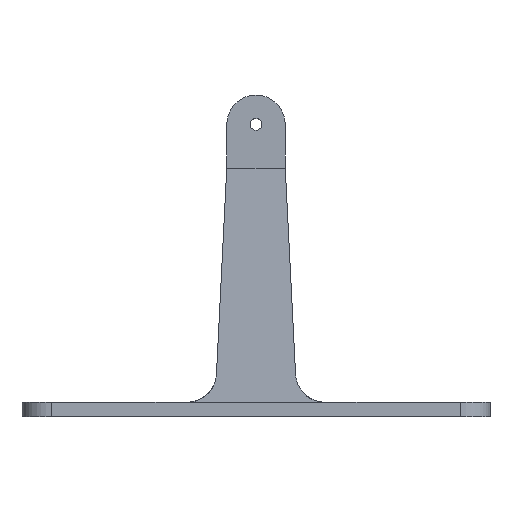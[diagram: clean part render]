
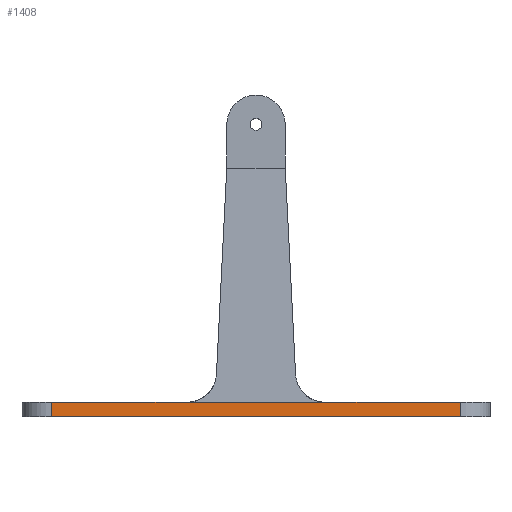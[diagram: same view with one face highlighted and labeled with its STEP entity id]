
A CAD part, left-side view. The second image highlights one B-rep face of the part: STEP entity #1408.
In plain terms, the highlighted planar face has unit normal (-1, 0, 0).
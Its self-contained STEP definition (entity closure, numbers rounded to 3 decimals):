
#32 = PLANE('',#33);
#33 = AXIS2_PLACEMENT_3D('',#34,#35,#36);
#34 = CARTESIAN_POINT('',(0.,0.,5.));
#35 = DIRECTION('',(0.,0.,-1.));
#36 = DIRECTION('',(-1.,0.,0.));
#227 = VERTEX_POINT('',#228);
#228 = CARTESIAN_POINT('',(-80.,-23.512,5.));
#254 = EDGE_CURVE('',#255,#227,#257,.T.);
#255 = VERTEX_POINT('',#256);
#256 = CARTESIAN_POINT('',(-80.,-70.,5.));
#257 = SURFACE_CURVE('',#258,(#262,#269),.PCURVE_S1.);
#258 = LINE('',#259,#260);
#259 = CARTESIAN_POINT('',(-80.,-80.,5.));
#260 = VECTOR('',#261,1.);
#261 = DIRECTION('',(0.,1.,0.));
#262 = PCURVE('',#32,#263);
#263 = DEFINITIONAL_REPRESENTATION('',(#264),#268);
#264 = LINE('',#265,#266);
#265 = CARTESIAN_POINT('',(80.,-80.));
#266 = VECTOR('',#267,1.);
#267 = DIRECTION('',(0.,1.));
#268 = ( GEOMETRIC_REPRESENTATION_CONTEXT(2) 
PARAMETRIC_REPRESENTATION_CONTEXT() REPRESENTATION_CONTEXT('2D SPACE',''
  ) );
#269 = PCURVE('',#270,#275);
#270 = PLANE('',#271);
#271 = AXIS2_PLACEMENT_3D('',#272,#273,#274);
#272 = CARTESIAN_POINT('',(-80.,-80.,5.));
#273 = DIRECTION('',(-1.,0.,0.));
#274 = DIRECTION('',(0.,0.,1.));
#275 = DEFINITIONAL_REPRESENTATION('',(#276),#280);
#276 = LINE('',#277,#278);
#277 = CARTESIAN_POINT('',(0.,0.));
#278 = VECTOR('',#279,1.);
#279 = DIRECTION('',(0.,1.));
#280 = ( GEOMETRIC_REPRESENTATION_CONTEXT(2) 
PARAMETRIC_REPRESENTATION_CONTEXT() REPRESENTATION_CONTEXT('2D SPACE',''
  ) );
#303 = CYLINDRICAL_SURFACE('',#304,10.);
#304 = AXIS2_PLACEMENT_3D('',#305,#306,#307);
#305 = CARTESIAN_POINT('',(-70.,-70.,5.));
#306 = DIRECTION('',(0.,0.,-1.));
#307 = DIRECTION('',(-1.,0.,0.));
#777 = PLANE('',#778);
#778 = AXIS2_PLACEMENT_3D('',#779,#780,#781);
#779 = CARTESIAN_POINT('',(0.,0.,0.));
#780 = DIRECTION('',(0.,0.,-1.));
#781 = DIRECTION('',(-1.,0.,0.));
#935 = PLANE('',#936);
#936 = AXIS2_PLACEMENT_3D('',#937,#938,#939);
#937 = CARTESIAN_POINT('',(0.,0.,5.));
#938 = DIRECTION('',(0.,0.,-1.));
#939 = DIRECTION('',(-1.,0.,0.));
#1408 = ADVANCED_FACE('',(#1409),#270,.T.);
#1409 = FACE_BOUND('',#1410,.T.);
#1410 = EDGE_LOOP('',(#1411,#1412,#1440,#1463,#1491,#1514));
#1411 = ORIENTED_EDGE('',*,*,#254,.T.);
#1412 = ORIENTED_EDGE('',*,*,#1413,.T.);
#1413 = EDGE_CURVE('',#227,#1414,#1416,.T.);
#1414 = VERTEX_POINT('',#1415);
#1415 = CARTESIAN_POINT('',(-80.,23.512,5.));
#1416 = SURFACE_CURVE('',#1417,(#1421,#1428),.PCURVE_S1.);
#1417 = LINE('',#1418,#1419);
#1418 = CARTESIAN_POINT('',(-80.,-80.,5.));
#1419 = VECTOR('',#1420,1.);
#1420 = DIRECTION('',(0.,1.,0.));
#1421 = PCURVE('',#270,#1422);
#1422 = DEFINITIONAL_REPRESENTATION('',(#1423),#1427);
#1423 = LINE('',#1424,#1425);
#1424 = CARTESIAN_POINT('',(0.,0.));
#1425 = VECTOR('',#1426,1.);
#1426 = DIRECTION('',(0.,1.));
#1427 = ( GEOMETRIC_REPRESENTATION_CONTEXT(2) 
PARAMETRIC_REPRESENTATION_CONTEXT() REPRESENTATION_CONTEXT('2D SPACE',''
  ) );
#1428 = PCURVE('',#1429,#1434);
#1429 = PLANE('',#1430);
#1430 = AXIS2_PLACEMENT_3D('',#1431,#1432,#1433);
#1431 = CARTESIAN_POINT('',(-76.,0.,85.));
#1432 = DIRECTION('',(-0.999,0.,0.05));
#1433 = DIRECTION('',(0.,1.,0.));
#1434 = DEFINITIONAL_REPRESENTATION('',(#1435),#1439);
#1435 = LINE('',#1436,#1437);
#1436 = CARTESIAN_POINT('',(-80.,80.1));
#1437 = VECTOR('',#1438,1.);
#1438 = DIRECTION('',(1.,0.));
#1439 = ( GEOMETRIC_REPRESENTATION_CONTEXT(2) 
PARAMETRIC_REPRESENTATION_CONTEXT() REPRESENTATION_CONTEXT('2D SPACE',''
  ) );
#1440 = ORIENTED_EDGE('',*,*,#1441,.T.);
#1441 = EDGE_CURVE('',#1414,#1442,#1444,.T.);
#1442 = VERTEX_POINT('',#1443);
#1443 = CARTESIAN_POINT('',(-80.,70.,5.));
#1444 = SURFACE_CURVE('',#1445,(#1449,#1456),.PCURVE_S1.);
#1445 = LINE('',#1446,#1447);
#1446 = CARTESIAN_POINT('',(-80.,-80.,5.));
#1447 = VECTOR('',#1448,1.);
#1448 = DIRECTION('',(0.,1.,0.));
#1449 = PCURVE('',#270,#1450);
#1450 = DEFINITIONAL_REPRESENTATION('',(#1451),#1455);
#1451 = LINE('',#1452,#1453);
#1452 = CARTESIAN_POINT('',(0.,0.));
#1453 = VECTOR('',#1454,1.);
#1454 = DIRECTION('',(0.,1.));
#1455 = ( GEOMETRIC_REPRESENTATION_CONTEXT(2) 
PARAMETRIC_REPRESENTATION_CONTEXT() REPRESENTATION_CONTEXT('2D SPACE',''
  ) );
#1456 = PCURVE('',#935,#1457);
#1457 = DEFINITIONAL_REPRESENTATION('',(#1458),#1462);
#1458 = LINE('',#1459,#1460);
#1459 = CARTESIAN_POINT('',(80.,-80.));
#1460 = VECTOR('',#1461,1.);
#1461 = DIRECTION('',(0.,1.));
#1462 = ( GEOMETRIC_REPRESENTATION_CONTEXT(2) 
PARAMETRIC_REPRESENTATION_CONTEXT() REPRESENTATION_CONTEXT('2D SPACE',''
  ) );
#1463 = ORIENTED_EDGE('',*,*,#1464,.T.);
#1464 = EDGE_CURVE('',#1442,#1465,#1467,.T.);
#1465 = VERTEX_POINT('',#1466);
#1466 = CARTESIAN_POINT('',(-80.,70.,0.));
#1467 = SURFACE_CURVE('',#1468,(#1472,#1479),.PCURVE_S1.);
#1468 = LINE('',#1469,#1470);
#1469 = CARTESIAN_POINT('',(-80.,70.,5.));
#1470 = VECTOR('',#1471,1.);
#1471 = DIRECTION('',(0.,0.,-1.));
#1472 = PCURVE('',#270,#1473);
#1473 = DEFINITIONAL_REPRESENTATION('',(#1474),#1478);
#1474 = LINE('',#1475,#1476);
#1475 = CARTESIAN_POINT('',(0.,150.));
#1476 = VECTOR('',#1477,1.);
#1477 = DIRECTION('',(-1.,0.));
#1478 = ( GEOMETRIC_REPRESENTATION_CONTEXT(2) 
PARAMETRIC_REPRESENTATION_CONTEXT() REPRESENTATION_CONTEXT('2D SPACE',''
  ) );
#1479 = PCURVE('',#1480,#1485);
#1480 = CYLINDRICAL_SURFACE('',#1481,10.);
#1481 = AXIS2_PLACEMENT_3D('',#1482,#1483,#1484);
#1482 = CARTESIAN_POINT('',(-70.,70.,5.));
#1483 = DIRECTION('',(0.,0.,-1.));
#1484 = DIRECTION('',(-1.,0.,0.));
#1485 = DEFINITIONAL_REPRESENTATION('',(#1486),#1490);
#1486 = LINE('',#1487,#1488);
#1487 = CARTESIAN_POINT('',(0.,0.));
#1488 = VECTOR('',#1489,1.);
#1489 = DIRECTION('',(0.,1.));
#1490 = ( GEOMETRIC_REPRESENTATION_CONTEXT(2) 
PARAMETRIC_REPRESENTATION_CONTEXT() REPRESENTATION_CONTEXT('2D SPACE',''
  ) );
#1491 = ORIENTED_EDGE('',*,*,#1492,.F.);
#1492 = EDGE_CURVE('',#1493,#1465,#1495,.T.);
#1493 = VERTEX_POINT('',#1494);
#1494 = CARTESIAN_POINT('',(-80.,-70.,0.));
#1495 = SURFACE_CURVE('',#1496,(#1500,#1507),.PCURVE_S1.);
#1496 = LINE('',#1497,#1498);
#1497 = CARTESIAN_POINT('',(-80.,-80.,0.));
#1498 = VECTOR('',#1499,1.);
#1499 = DIRECTION('',(0.,1.,0.));
#1500 = PCURVE('',#270,#1501);
#1501 = DEFINITIONAL_REPRESENTATION('',(#1502),#1506);
#1502 = LINE('',#1503,#1504);
#1503 = CARTESIAN_POINT('',(-5.,0.));
#1504 = VECTOR('',#1505,1.);
#1505 = DIRECTION('',(0.,1.));
#1506 = ( GEOMETRIC_REPRESENTATION_CONTEXT(2) 
PARAMETRIC_REPRESENTATION_CONTEXT() REPRESENTATION_CONTEXT('2D SPACE',''
  ) );
#1507 = PCURVE('',#777,#1508);
#1508 = DEFINITIONAL_REPRESENTATION('',(#1509),#1513);
#1509 = LINE('',#1510,#1511);
#1510 = CARTESIAN_POINT('',(80.,-80.));
#1511 = VECTOR('',#1512,1.);
#1512 = DIRECTION('',(0.,1.));
#1513 = ( GEOMETRIC_REPRESENTATION_CONTEXT(2) 
PARAMETRIC_REPRESENTATION_CONTEXT() REPRESENTATION_CONTEXT('2D SPACE',''
  ) );
#1514 = ORIENTED_EDGE('',*,*,#1515,.T.);
#1515 = EDGE_CURVE('',#1493,#255,#1516,.T.);
#1516 = SURFACE_CURVE('',#1517,(#1521,#1528),.PCURVE_S1.);
#1517 = LINE('',#1518,#1519);
#1518 = CARTESIAN_POINT('',(-80.,-70.,5.));
#1519 = VECTOR('',#1520,1.);
#1520 = DIRECTION('',(0.,0.,1.));
#1521 = PCURVE('',#270,#1522);
#1522 = DEFINITIONAL_REPRESENTATION('',(#1523),#1527);
#1523 = LINE('',#1524,#1525);
#1524 = CARTESIAN_POINT('',(0.,10.));
#1525 = VECTOR('',#1526,1.);
#1526 = DIRECTION('',(1.,0.));
#1527 = ( GEOMETRIC_REPRESENTATION_CONTEXT(2) 
PARAMETRIC_REPRESENTATION_CONTEXT() REPRESENTATION_CONTEXT('2D SPACE',''
  ) );
#1528 = PCURVE('',#303,#1529);
#1529 = DEFINITIONAL_REPRESENTATION('',(#1530),#1534);
#1530 = LINE('',#1531,#1532);
#1531 = CARTESIAN_POINT('',(6.283,0.));
#1532 = VECTOR('',#1533,1.);
#1533 = DIRECTION('',(0.,-1.));
#1534 = ( GEOMETRIC_REPRESENTATION_CONTEXT(2) 
PARAMETRIC_REPRESENTATION_CONTEXT() REPRESENTATION_CONTEXT('2D SPACE',''
  ) );
